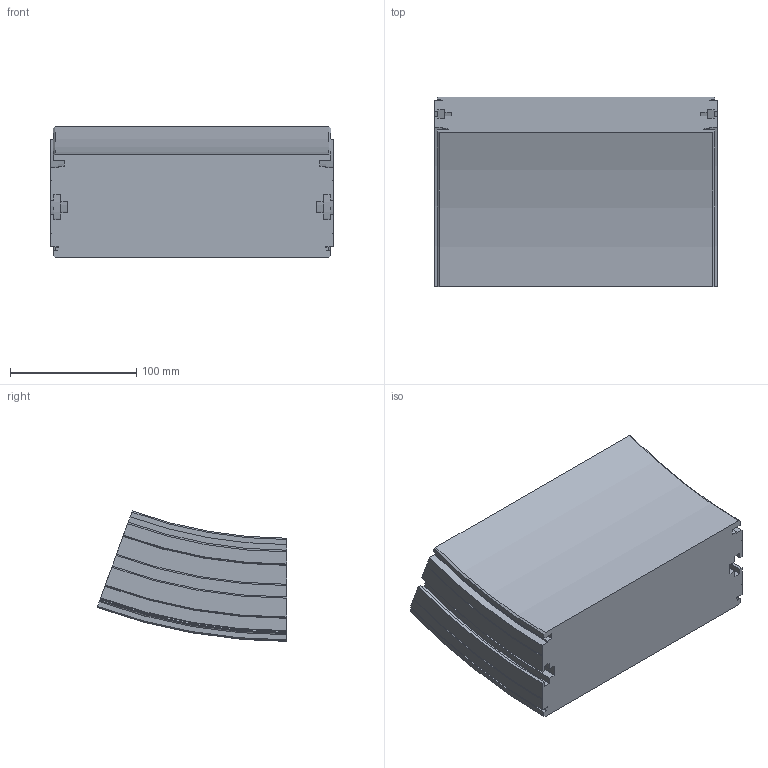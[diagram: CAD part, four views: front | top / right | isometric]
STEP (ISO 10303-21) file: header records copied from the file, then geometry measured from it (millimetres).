
FILE_DESCRIPTION(/* description */ ('VERTIKALKURVA S220 R400'),/* implementation_level */ '2;1');
FILE_NAME(/* name */ '\\carryline.intra\privat\users\mathias\Desktop\Tillfälliga filer\220-5645+220-2000-NER-01.stp',/* time_stamp */ '2018-11-29T13:25:15+01:00',/* author */ ('MD'),/* organization */ ('CARRYLINE'),/* preprocessor_version */ 'ST-DEVELOPER v17',/* originating_system */ 'Autodesk Inventor 2018',/* authorisation */ '');
FILE_SCHEMA (('AUTOMOTIVE_DESIGN { 1 0 10303 214 3 1 1 }'));
Length unit declared in the file: millimetre
Products named in the file (1): 220-5645+220-2000-NER-01
Bounding box: 224 x 150.32 x 103.09 mm (x, y, z)
Volume: 2463796.3 mm3; surface area: 140091.9 mm2
Topology: 1 solids, 1 shells, 113 faces, 318 edges, 212 vertices
Faces by surface type: plane 48, cylinder 31, bspline 14, cone 14, torus 6
Entity records: 8355 total; most frequent: CARTESIAN_POINT 5387, ORIENTED_EDGE 636, DIRECTION 576, EDGE_CURVE 318, VERTEX_POINT 212, AXIS2_PLACEMENT_3D 199, LINE 178, VECTOR 178
